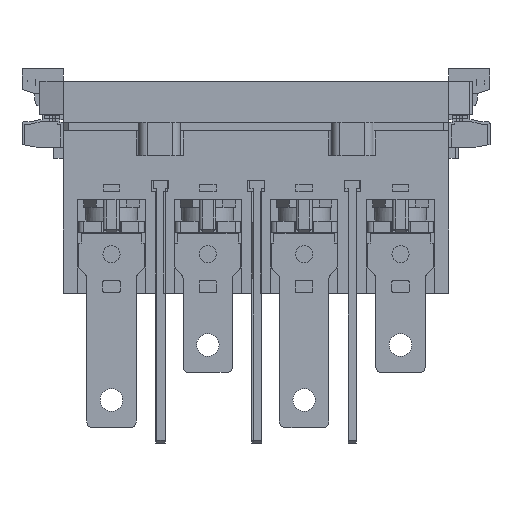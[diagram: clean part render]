
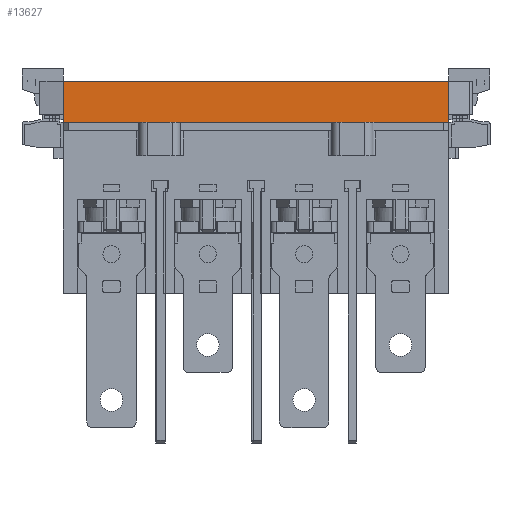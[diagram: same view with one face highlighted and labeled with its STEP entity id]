
A CAD part, front view. The second image highlights one B-rep face of the part: STEP entity #13627.
In plain terms, the highlighted planar face has unit normal (0, -1, 0).
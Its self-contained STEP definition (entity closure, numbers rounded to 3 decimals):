
#1420 = CARTESIAN_POINT ( 'NONE',  ( -49.097, -53.347, 48.754 ) ) ;
#3482 = CARTESIAN_POINT ( 'NONE',  ( -84.097, -53.347, 30.754 ) ) ;
#4350 = DIRECTION ( 'NONE',  ( -1., 0., 0. ) ) ;
#5677 = VECTOR ( 'NONE', #35098, 1000. ) ;
#7011 = CARTESIAN_POINT ( 'NONE',  ( -84.097, -53.347, 48.754 ) ) ;
#7425 = DIRECTION ( 'NONE',  ( 0., 1., 0. ) ) ;
#8321 = EDGE_CURVE ( 'NONE', #34940, #71398, #78818, .T. ) ;
#10044 = DIRECTION ( 'NONE',  ( 0., 0., -1. ) ) ;
#13627 = ADVANCED_FACE ( 'NONE', ( #66173 ), #38994, .F. ) ;
#18947 = CARTESIAN_POINT ( 'NONE',  ( 55.903, -53.347, 48.754 ) ) ;
#19863 = ORIENTED_EDGE ( 'NONE', *, *, #8321, .F. ) ;
#22152 = VECTOR ( 'NONE', #10044, 1000. ) ;
#29144 = CARTESIAN_POINT ( 'NONE',  ( 55.903, -53.347, 45.754 ) ) ;
#30559 = CARTESIAN_POINT ( 'NONE',  ( -90.805, -53.347, 45.754 ) ) ;
#32599 = EDGE_CURVE ( 'NONE', #34940, #72686, #47753, .T. ) ;
#34057 = EDGE_CURVE ( 'NONE', #71398, #51061, #88262, .T. ) ;
#34522 = EDGE_LOOP ( 'NONE', ( #70698, #19863, #61637, #48375 ) ) ;
#34940 = VERTEX_POINT ( 'NONE', #74597 ) ;
#35098 = DIRECTION ( 'NONE',  ( 1., 0., 0. ) ) ;
#37485 = EDGE_CURVE ( 'NONE', #51061, #72686, #45045, .T. ) ;
#38994 = PLANE ( 'NONE',  #75308 ) ;
#43145 = CARTESIAN_POINT ( 'NONE',  ( 55.903, -53.347, 30.754 ) ) ;
#45045 = LINE ( 'NONE', #73674, #68994 ) ;
#47753 = LINE ( 'NONE', #7011, #22152 ) ;
#48375 = ORIENTED_EDGE ( 'NONE', *, *, #37485, .F. ) ;
#51061 = VERTEX_POINT ( 'NONE', #43145 ) ;
#53528 = VECTOR ( 'NONE', #62637, 1000. ) ;
#61637 = ORIENTED_EDGE ( 'NONE', *, *, #32599, .T. ) ;
#62637 = DIRECTION ( 'NONE',  ( 0., 0., -1. ) ) ;
#66173 = FACE_OUTER_BOUND ( 'NONE', #34522, .T. ) ;
#68994 = VECTOR ( 'NONE', #4350, 1000. ) ;
#70698 = ORIENTED_EDGE ( 'NONE', *, *, #34057, .F. ) ;
#71398 = VERTEX_POINT ( 'NONE', #29144 ) ;
#72686 = VERTEX_POINT ( 'NONE', #3482 ) ;
#73674 = CARTESIAN_POINT ( 'NONE',  ( 59.509, -53.347, 30.754 ) ) ;
#74597 = CARTESIAN_POINT ( 'NONE',  ( -84.097, -53.347, 45.754 ) ) ;
#75308 = AXIS2_PLACEMENT_3D ( 'NONE', #1420, #7425, #87344 ) ;
#78818 = LINE ( 'NONE', #30559, #5677 ) ;
#87344 = DIRECTION ( 'NONE',  ( 1., 0., 0. ) ) ;
#88262 = LINE ( 'NONE', #18947, #53528 ) ;
